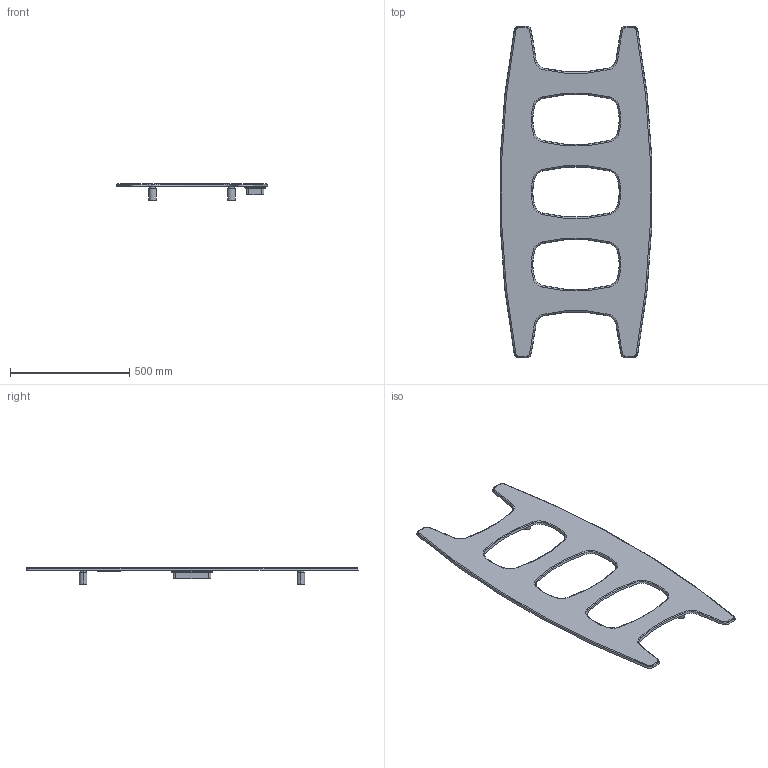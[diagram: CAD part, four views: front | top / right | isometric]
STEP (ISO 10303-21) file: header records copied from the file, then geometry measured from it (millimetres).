
FILE_DESCRIPTION((''),'2;1');
FILE_NAME('3582806100103_3D_SITO_ASM','2023-02-21T12:26:21',('PC132'),(''),'CREO PARAMETRIC BY PTC INC, 2022124','CREO PARAMETRIC BY PTC INC, 2022124','');
FILE_SCHEMA(('AUTOMOTIVE_DESIGN { 1 0 10303 214 1 1 1 1 }'));
Length unit declared in the file: millimetre
Products named in the file (2): 3582806100103_3D_SITO; 3582806100103_3D_SITO_ASM
Assembly tree (1 placements, depth 2):
  3582806100103_3D_SITO_ASM
    3582806100103_3D_SITO
Bounding box: 635.92 x 1390.83 x 70 mm (x, y, z)
Volume: 5978006.8 mm3; surface area: 1094609 mm2
Topology: 1 solids, 1 shells, 181 faces, 420 edges, 252 vertices
Faces by surface type: cone 64, torus 52, cylinder 36, plane 29
Entity records: 8672 total; most frequent: DIRECTION 1154, CARTESIAN_POINT 1101, ORIENTED_EDGE 840, PRESENTATION_STYLE_ASSIGNMENT 481, STYLED_ITEM 481, CURVE_STYLE 480, AXIS2_PLACEMENT_3D 471, EDGE_CURVE 420
